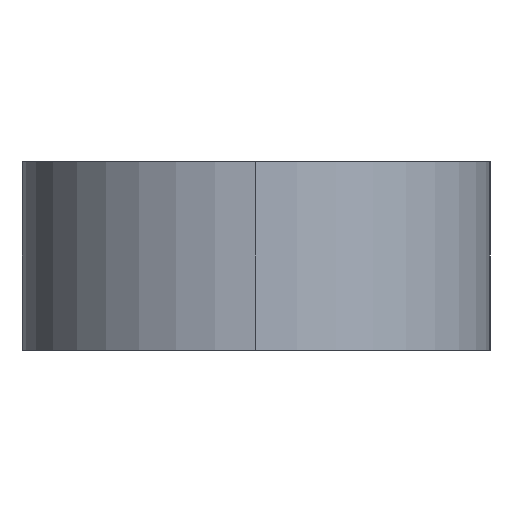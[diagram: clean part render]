
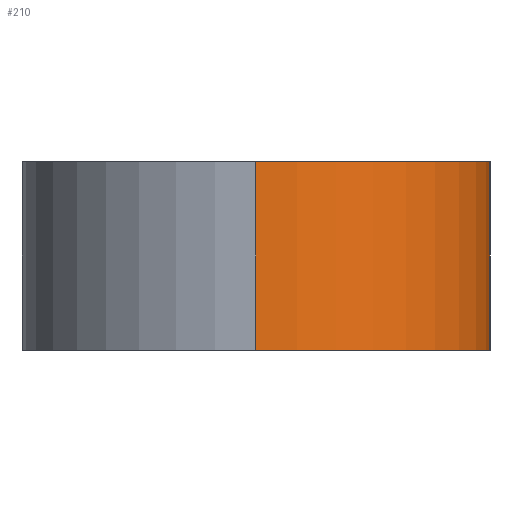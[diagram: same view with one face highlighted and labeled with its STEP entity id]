
A CAD part, left-side view. The second image highlights one B-rep face of the part: STEP entity #210.
In plain terms, the highlighted cylindrical face has radius 6.35 mm (diameter 12.7 mm), a partial arc.
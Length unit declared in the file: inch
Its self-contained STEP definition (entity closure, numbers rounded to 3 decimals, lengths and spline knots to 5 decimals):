
#8 = DIRECTION ( 'NONE',  ( 0., 0., -1. ) ) ;
#25 = EDGE_CURVE ( 'NONE', #312, #386, #153, .T. ) ;
#71 = CARTESIAN_POINT ( 'NONE',  ( -1.5, 0., 4.8788 ) ) ;
#95 = DIRECTION ( 'NONE',  ( 0., 0., 1. ) ) ;
#124 = VERTEX_POINT ( 'NONE', #166 ) ;
#135 = EDGE_CURVE ( 'NONE', #124, #312, #408, .T. ) ;
#139 = DIRECTION ( 'NONE',  ( -1., 0., 0. ) ) ;
#147 = EDGE_LOOP ( 'NONE', ( #177, #465, #396, #170 ) ) ;
#153 = CIRCLE ( 'NONE', #283, 0.25 ) ;
#166 = CARTESIAN_POINT ( 'NONE',  ( -1.25, -0.25, 0. ) ) ;
#167 = AXIS2_PLACEMENT_3D ( 'NONE', #364, #404, #139 ) ;
#170 = ORIENTED_EDGE ( 'NONE', *, *, #135, .T. ) ;
#173 = FACE_OUTER_BOUND ( 'NONE', #147, .T. ) ;
#175 = LINE ( 'NONE', #71, #395 ) ;
#177 = ORIENTED_EDGE ( 'NONE', *, *, #25, .T. ) ;
#179 = EDGE_CURVE ( 'NONE', #267, #124, #481, .T. ) ;
#208 = DIRECTION ( 'NONE',  ( 0., 0., 1. ) ) ;
#210 = ADVANCED_FACE ( 'NONE', ( #173 ), #371, .T. ) ;
#241 = CARTESIAN_POINT ( 'NONE',  ( -1.25, 0., 0.201 ) ) ;
#258 = CARTESIAN_POINT ( 'NONE',  ( -1.25, -0.25, 0.201 ) ) ;
#264 = CARTESIAN_POINT ( 'NONE',  ( -1.5, 0., 0.201 ) ) ;
#267 = VERTEX_POINT ( 'NONE', #411 ) ;
#280 = DIRECTION ( 'NONE',  ( -1., 0., 0. ) ) ;
#283 = AXIS2_PLACEMENT_3D ( 'NONE', #241, #8, #280 ) ;
#312 = VERTEX_POINT ( 'NONE', #258 ) ;
#364 = CARTESIAN_POINT ( 'NONE',  ( -1.25, 0., 4.8788 ) ) ;
#371 = CYLINDRICAL_SURFACE ( 'NONE', #167, 0.25 ) ;
#386 = VERTEX_POINT ( 'NONE', #264 ) ;
#395 = VECTOR ( 'NONE', #489, 39.37008 ) ;
#396 = ORIENTED_EDGE ( 'NONE', *, *, #179, .T. ) ;
#404 = DIRECTION ( 'NONE',  ( 0., 0., -1. ) ) ;
#408 = LINE ( 'NONE', #473, #428 ) ;
#411 = CARTESIAN_POINT ( 'NONE',  ( -1.5, 0., 0. ) ) ;
#428 = VECTOR ( 'NONE', #95, 39.37008 ) ;
#436 = AXIS2_PLACEMENT_3D ( 'NONE', #440, #208, #478 ) ;
#440 = CARTESIAN_POINT ( 'NONE',  ( -1.25, 0., 0. ) ) ;
#465 = ORIENTED_EDGE ( 'NONE', *, *, #492, .T. ) ;
#473 = CARTESIAN_POINT ( 'NONE',  ( -1.25, -0.25, 0.201 ) ) ;
#478 = DIRECTION ( 'NONE',  ( -1., 0., 0. ) ) ;
#481 = CIRCLE ( 'NONE', #436, 0.25 ) ;
#489 = DIRECTION ( 'NONE',  ( 0., 0., -1. ) ) ;
#492 = EDGE_CURVE ( 'NONE', #386, #267, #175, .T. ) ;
